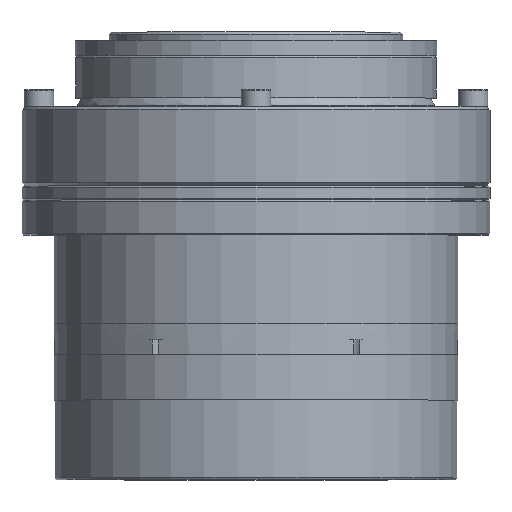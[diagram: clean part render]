
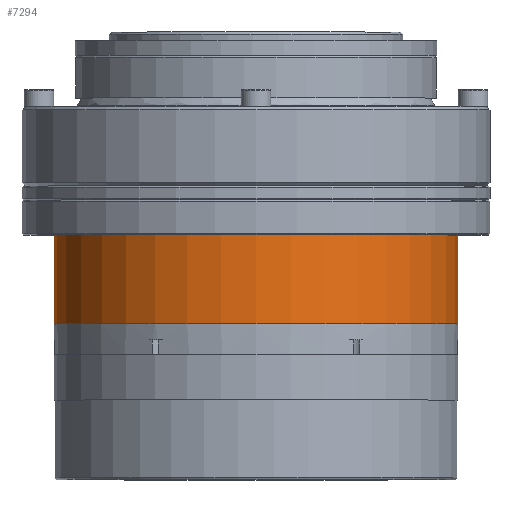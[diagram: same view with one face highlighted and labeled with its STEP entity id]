
A CAD part, top view. The second image highlights one B-rep face of the part: STEP entity #7294.
In plain terms, the highlighted cylindrical face has radius 47.4 mm (diameter 94.8 mm), a full revolution.
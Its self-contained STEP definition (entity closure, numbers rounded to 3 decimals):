
#455 = AXIS2_PLACEMENT_3D ( 'NONE', #8248, #30030, #29693 ) ;
#863 = CARTESIAN_POINT ( 'NONE',  ( 0., -25.6, -47.4 ) ) ;
#1467 = DIRECTION ( 'NONE',  ( 0., -1., 0. ) ) ;
#2165 = CARTESIAN_POINT ( 'NONE',  ( 0., -4.7, 0. ) ) ;
#6255 = CIRCLE ( 'NONE', #16267, 47.4 ) ;
#6538 = CIRCLE ( 'NONE', #8202, 47.4 ) ;
#7060 = DIRECTION ( 'NONE',  ( 0., 0., 1. ) ) ;
#7294 = ADVANCED_FACE ( 'NONE', ( #24624, #19377 ), #30210, .T. ) ;
#7411 = CARTESIAN_POINT ( 'NONE',  ( 0., -25.6, 0. ) ) ;
#8202 = AXIS2_PLACEMENT_3D ( 'NONE', #7411, #1467, #12114 ) ;
#8248 = CARTESIAN_POINT ( 'NONE',  ( 0., -25.6, 0. ) ) ;
#10419 = ORIENTED_EDGE ( 'NONE', *, *, #27670, .T. ) ;
#11909 = VERTEX_POINT ( 'NONE', #32659 ) ;
#12114 = DIRECTION ( 'NONE',  ( 0., 0., -1. ) ) ;
#14647 = VERTEX_POINT ( 'NONE', #863 ) ;
#16267 = AXIS2_PLACEMENT_3D ( 'NONE', #2165, #28320, #7060 ) ;
#16276 = EDGE_CURVE ( 'NONE', #14647, #14647, #6538, .T. ) ;
#17171 = ORIENTED_EDGE ( 'NONE', *, *, #16276, .F. ) ;
#19377 = FACE_OUTER_BOUND ( 'NONE', #23978, .T. ) ;
#23978 = EDGE_LOOP ( 'NONE', ( #10419 ) ) ;
#24624 = FACE_OUTER_BOUND ( 'NONE', #34484, .T. ) ;
#27670 = EDGE_CURVE ( 'NONE', #11909, #11909, #6255, .T. ) ;
#28320 = DIRECTION ( 'NONE',  ( 0., -1., 0. ) ) ;
#29693 = DIRECTION ( 'NONE',  ( 0., 0., 1. ) ) ;
#30030 = DIRECTION ( 'NONE',  ( 0., 1., 0. ) ) ;
#30210 = CYLINDRICAL_SURFACE ( 'NONE', #455, 47.4 ) ;
#32659 = CARTESIAN_POINT ( 'NONE',  ( 0., -4.7, 47.4 ) ) ;
#34484 = EDGE_LOOP ( 'NONE', ( #17171 ) ) ;
